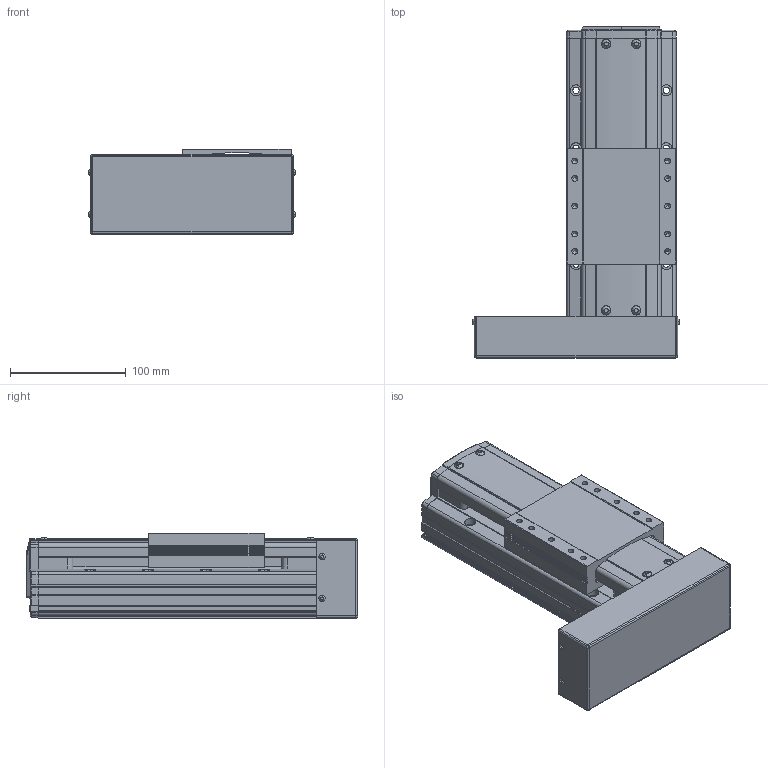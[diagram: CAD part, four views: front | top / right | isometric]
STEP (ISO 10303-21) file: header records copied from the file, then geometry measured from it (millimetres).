
FILE_DESCRIPTION(('STEP AP214'),'1');
FILE_NAME('Z:/Web/3D/PSA95/STP/PSA95-050 (3D)/PSA95ㅁㅁ-050PL.stp','2014-07-02T23:31:50',(' '),(' '),'Spatial InterOp 3D',' ',' ');
FILE_SCHEMA(('automotive_design'));
Length unit declared in the file: millimetre
Products named in the file (23): BASE; RRCV; 스크루 : Round - M4.0 x 10.0; 너트 : Square - M10.0 x 220.7419; RR1500; FRCV-090; 스크루 : Round - M4.0 x 6.0; SLBL-PA90; MOTOR PLATE COVER; 스크루 : Round - M3.0 x 6.0
Bounding box: 179.13 x 286.5 x 74 mm (x, y, z)
Volume: 1858997 mm3; surface area: 230958.3 mm2
Topology: 23 solids, 23 shells, 1733 faces, 4658 edges, 2999 vertices
Faces by surface type: plane 1041, cylinder 477, cone 135, sphere 42, bspline 24, torus 14
Entity records: 70352 total; most frequent: CARTESIAN_POINT 12318, ORIENTED_EDGE 9168, DIRECTION 9122, EDGE_CURVE 4584, LINE 3224, VECTOR 3224, VERTEX_POINT 2999, AXIS2_PLACEMENT_3D 2949
